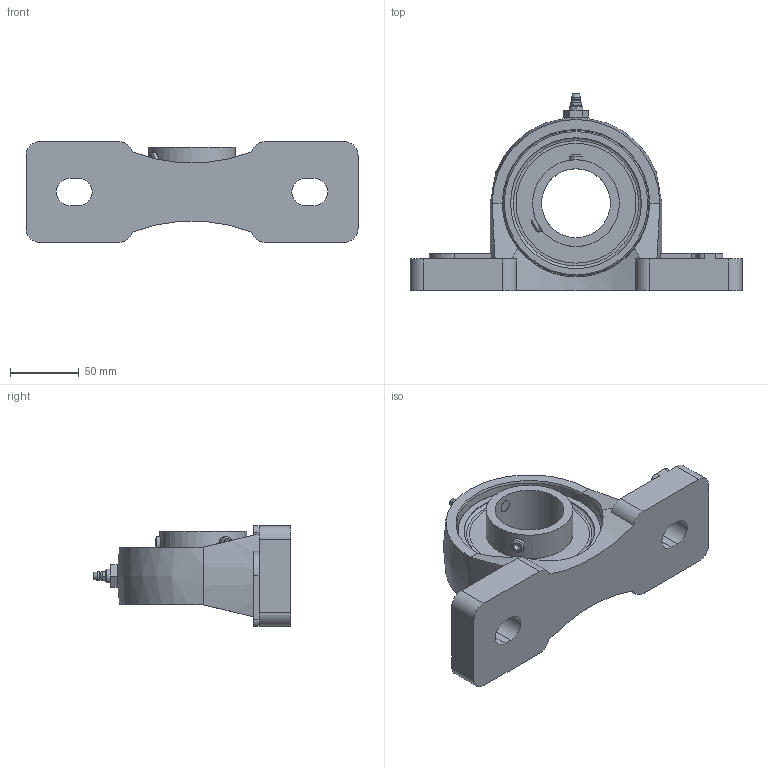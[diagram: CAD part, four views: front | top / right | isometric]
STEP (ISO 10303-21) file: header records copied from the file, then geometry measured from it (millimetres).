
FILE_DESCRIPTION((''),'2;1');
FILE_NAME('\\Ts-tgl068\J-Cad-D-BASE\00.3DCADデータ作成フォルダ\01.ピロー形\UCEP200\UCEP210.stp','2014-04-18T09:40:59',('btec_1106_2'),(''),'Autodesk Inventor 2012','Autodesk Inventor 2012','');
FILE_SCHEMA(('AUTOMOTIVE_DESIGN { 1 0 10303 214 1 1 1 1 }'));
Length unit declared in the file: millimetre
Products named in the file (7): UCEP200; EP210; AU110-1; EC210; GU1; シリーズUC [番手=210 ul]; M10X1
Assembly tree (6 placements, depth 2):
  UCEP200
    EP210
    AU110-1
    EC210
    GU1
    シリーズUC [番手=210 ul]
    M10X1
Bounding box: 241 x 143.39 x 73 mm (x, y, z)
Volume: 645270.5 mm3; surface area: 125793.4 mm2
Topology: 6 solids, 6 shells, 171 faces, 419 edges, 268 vertices
Faces by surface type: plane 87, cylinder 50, cone 21, torus 8, sphere 4, bspline 1
Full cylindrical faces by diameter (mm): 2 x1, 5 x1, 5.359 x1, 6.35 x1, 8.376 x2, 10 x3, 50 x1, 63 x2, 95 x2, 106 x2
Entity records: 5303 total; most frequent: CARTESIAN_POINT 1206, DIRECTION 834, ORIENTED_EDGE 736, EDGE_CURVE 368, AXIS2_PLACEMENT_3D 329, VERTEX_POINT 254, EDGE_LOOP 232, VECTOR 176
